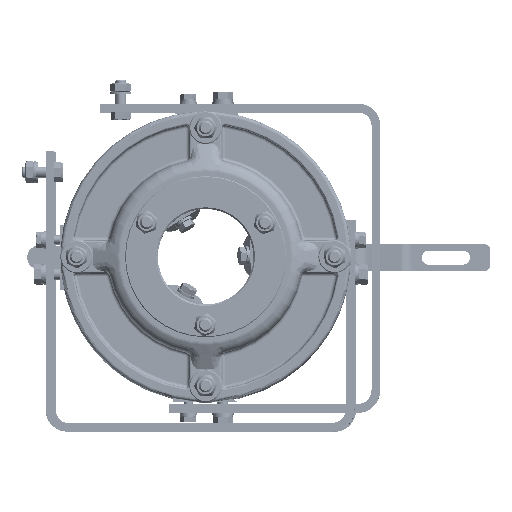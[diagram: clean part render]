
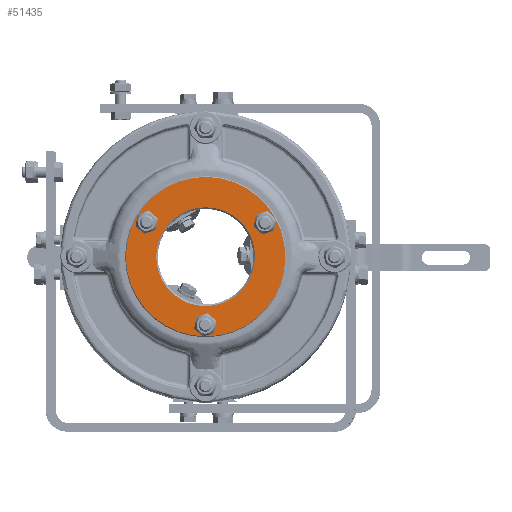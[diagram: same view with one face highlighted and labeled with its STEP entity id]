
A CAD part, top view. The second image highlights one B-rep face of the part: STEP entity #51435.
In plain terms, the highlighted planar face has unit normal (0, 0, 1).
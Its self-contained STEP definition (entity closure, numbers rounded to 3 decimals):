
#8114=FACE_BOUND('',#14236,.T.);
#8115=FACE_BOUND('',#14237,.T.);
#8116=FACE_BOUND('',#14238,.T.);
#8117=FACE_BOUND('',#14239,.T.);
#10763=FACE_OUTER_BOUND('',#14235,.T.);
#14235=EDGE_LOOP('',(#35446));
#14236=EDGE_LOOP('',(#35447,#35448,#35449,#35450,#35451,#35452));
#14237=EDGE_LOOP('',(#35453,#35454,#35455,#35456,#35457,#35458));
#14238=EDGE_LOOP('',(#35459,#35460,#35461,#35462,#35463,#35464));
#14239=EDGE_LOOP('',(#35465));
#18036=CIRCLE('',#54560,9.525);
#18037=CIRCLE('',#54562,9.525);
#18038=CIRCLE('',#54564,9.525);
#18039=CIRCLE('',#54566,9.525);
#18040=CIRCLE('',#54568,9.525);
#18041=CIRCLE('',#54570,9.525);
#18546=CIRCLE('',#55487,74.15);
#18547=CIRCLE('',#55488,9.525);
#18548=CIRCLE('',#55489,9.525);
#18549=CIRCLE('',#55490,9.525);
#18550=CIRCLE('',#55491,9.525);
#18551=CIRCLE('',#55492,9.525);
#18552=CIRCLE('',#55493,9.525);
#18553=CIRCLE('',#55494,9.525);
#18554=CIRCLE('',#55495,9.525);
#18555=CIRCLE('',#55496,9.525);
#18556=CIRCLE('',#55497,9.525);
#18557=CIRCLE('',#55498,9.525);
#18558=CIRCLE('',#55499,9.525);
#18559=CIRCLE('',#55500,45.95);
#20811=VERTEX_POINT('',#75893);
#20813=VERTEX_POINT('',#75898);
#20815=VERTEX_POINT('',#75905);
#20816=VERTEX_POINT('',#75914);
#20819=VERTEX_POINT('',#75925);
#20820=VERTEX_POINT('',#75934);
#21571=VERTEX_POINT('',#83646);
#21572=VERTEX_POINT('',#83648);
#21573=VERTEX_POINT('',#83649);
#21574=VERTEX_POINT('',#83651);
#21575=VERTEX_POINT('',#83653);
#21576=VERTEX_POINT('',#83655);
#21577=VERTEX_POINT('',#83657);
#21578=VERTEX_POINT('',#83660);
#21579=VERTEX_POINT('',#83661);
#21580=VERTEX_POINT('',#83663);
#21581=VERTEX_POINT('',#83665);
#21582=VERTEX_POINT('',#83667);
#21583=VERTEX_POINT('',#83669);
#21584=VERTEX_POINT('',#83672);
#25624=EDGE_CURVE('',#20813,#20811,#18036,.T.);
#25628=EDGE_CURVE('',#20815,#20813,#18037,.T.);
#25630=EDGE_CURVE('',#20811,#20816,#18038,.T.);
#25634=EDGE_CURVE('',#20819,#20815,#18039,.T.);
#25636=EDGE_CURVE('',#20816,#20820,#18040,.T.);
#25640=EDGE_CURVE('',#20820,#20819,#18041,.T.);
#26809=EDGE_CURVE('',#21571,#21571,#18546,.T.);
#26810=EDGE_CURVE('',#21572,#21573,#18547,.T.);
#26811=EDGE_CURVE('',#21573,#21574,#18548,.T.);
#26812=EDGE_CURVE('',#21574,#21575,#18549,.T.);
#26813=EDGE_CURVE('',#21575,#21576,#18550,.T.);
#26814=EDGE_CURVE('',#21576,#21577,#18551,.T.);
#26815=EDGE_CURVE('',#21577,#21572,#18552,.T.);
#26816=EDGE_CURVE('',#21578,#21579,#18553,.T.);
#26817=EDGE_CURVE('',#21579,#21580,#18554,.T.);
#26818=EDGE_CURVE('',#21580,#21581,#18555,.T.);
#26819=EDGE_CURVE('',#21581,#21582,#18556,.T.);
#26820=EDGE_CURVE('',#21582,#21583,#18557,.T.);
#26821=EDGE_CURVE('',#21583,#21578,#18558,.T.);
#26822=EDGE_CURVE('',#21584,#21584,#18559,.T.);
#35446=ORIENTED_EDGE('',*,*,#26809,.F.);
#35447=ORIENTED_EDGE('',*,*,#26810,.T.);
#35448=ORIENTED_EDGE('',*,*,#26811,.T.);
#35449=ORIENTED_EDGE('',*,*,#26812,.T.);
#35450=ORIENTED_EDGE('',*,*,#26813,.T.);
#35451=ORIENTED_EDGE('',*,*,#26814,.T.);
#35452=ORIENTED_EDGE('',*,*,#26815,.T.);
#35453=ORIENTED_EDGE('',*,*,#25624,.T.);
#35454=ORIENTED_EDGE('',*,*,#25630,.T.);
#35455=ORIENTED_EDGE('',*,*,#25636,.T.);
#35456=ORIENTED_EDGE('',*,*,#25640,.T.);
#35457=ORIENTED_EDGE('',*,*,#25634,.T.);
#35458=ORIENTED_EDGE('',*,*,#25628,.T.);
#35459=ORIENTED_EDGE('',*,*,#26816,.T.);
#35460=ORIENTED_EDGE('',*,*,#26817,.T.);
#35461=ORIENTED_EDGE('',*,*,#26818,.T.);
#35462=ORIENTED_EDGE('',*,*,#26819,.T.);
#35463=ORIENTED_EDGE('',*,*,#26820,.T.);
#35464=ORIENTED_EDGE('',*,*,#26821,.T.);
#35465=ORIENTED_EDGE('',*,*,#26822,.F.);
#46049=PLANE('',#55486);
#51435=ADVANCED_FACE('',(#10763,#8114,#8115,#8116,#8117),#46049,.T.);
#54560=AXIS2_PLACEMENT_3D('',#75899,#61251,#61252);
#54562=AXIS2_PLACEMENT_3D('',#75912,#61255,#61256);
#54564=AXIS2_PLACEMENT_3D('',#75919,#61259,#61260);
#54566=AXIS2_PLACEMENT_3D('',#75932,#61263,#61264);
#54568=AXIS2_PLACEMENT_3D('',#75939,#61267,#61268);
#54570=AXIS2_PLACEMENT_3D('',#75951,#61271,#61272);
#55486=AXIS2_PLACEMENT_3D('',#83645,#63289,#63290);
#55487=AXIS2_PLACEMENT_3D('',#83647,#63291,#63292);
#55488=AXIS2_PLACEMENT_3D('',#83650,#63293,#63294);
#55489=AXIS2_PLACEMENT_3D('',#83652,#63295,#63296);
#55490=AXIS2_PLACEMENT_3D('',#83654,#63297,#63298);
#55491=AXIS2_PLACEMENT_3D('',#83656,#63299,#63300);
#55492=AXIS2_PLACEMENT_3D('',#83658,#63301,#63302);
#55493=AXIS2_PLACEMENT_3D('',#83659,#63303,#63304);
#55494=AXIS2_PLACEMENT_3D('',#83662,#63305,#63306);
#55495=AXIS2_PLACEMENT_3D('',#83664,#63307,#63308);
#55496=AXIS2_PLACEMENT_3D('',#83666,#63309,#63310);
#55497=AXIS2_PLACEMENT_3D('',#83668,#63311,#63312);
#55498=AXIS2_PLACEMENT_3D('',#83670,#63313,#63314);
#55499=AXIS2_PLACEMENT_3D('',#83671,#63315,#63316);
#55500=AXIS2_PLACEMENT_3D('',#83673,#63317,#63318);
#61251=DIRECTION('center_axis',(0.,0.,
-1.));
#61252=DIRECTION('ref_axis',(0.192,0.981,0.));
#61255=DIRECTION('center_axis',(0.,0.,
-1.));
#61256=DIRECTION('ref_axis',(0.192,0.981,0.));
#61259=DIRECTION('center_axis',(0.,0.,
-1.));
#61260=DIRECTION('ref_axis',(0.192,0.981,0.));
#61263=DIRECTION('center_axis',(0.,0.,
-1.));
#61264=DIRECTION('ref_axis',(0.192,0.981,0.));
#61267=DIRECTION('center_axis',(0.,0.,
-1.));
#61268=DIRECTION('ref_axis',(0.192,0.981,0.));
#61271=DIRECTION('center_axis',(0.,0.,
-1.));
#61272=DIRECTION('ref_axis',(0.192,0.981,0.));
#63289=DIRECTION('center_axis',(0.,0.,
1.));
#63290=DIRECTION('ref_axis',(-1.,0.004,0.));
#63291=DIRECTION('center_axis',(0.,0.,
-1.));
#63292=DIRECTION('ref_axis',(1.,-0.004,0.));
#63293=DIRECTION('center_axis',(0.,0.,
-1.));
#63294=DIRECTION('ref_axis',(0.754,-0.657,0.));
#63295=DIRECTION('center_axis',(0.,0.,
-1.));
#63296=DIRECTION('ref_axis',(0.754,-0.657,0.));
#63297=DIRECTION('center_axis',(0.,0.,
-1.));
#63298=DIRECTION('ref_axis',(0.754,-0.657,0.));
#63299=DIRECTION('center_axis',(0.,0.,
-1.));
#63300=DIRECTION('ref_axis',(0.754,-0.657,0.));
#63301=DIRECTION('center_axis',(0.,0.,
-1.));
#63302=DIRECTION('ref_axis',(0.754,-0.657,0.));
#63303=DIRECTION('center_axis',(0.,0.,
-1.));
#63304=DIRECTION('ref_axis',(0.754,-0.657,0.));
#63305=DIRECTION('center_axis',(0.,0.,
-1.));
#63306=DIRECTION('ref_axis',(-0.946,-0.325,0.));
#63307=DIRECTION('center_axis',(0.,0.,
-1.));
#63308=DIRECTION('ref_axis',(-0.946,-0.325,0.));
#63309=DIRECTION('center_axis',(0.,0.,
-1.));
#63310=DIRECTION('ref_axis',(-0.946,-0.325,0.));
#63311=DIRECTION('center_axis',(0.,0.,
-1.));
#63312=DIRECTION('ref_axis',(-0.946,-0.325,0.));
#63313=DIRECTION('center_axis',(0.,0.,
-1.));
#63314=DIRECTION('ref_axis',(-0.946,-0.325,0.));
#63315=DIRECTION('center_axis',(0.,0.,
-1.));
#63316=DIRECTION('ref_axis',(-0.946,-0.325,0.));
#63317=DIRECTION('center_axis',(0.,0.,
1.));
#63318=DIRECTION('ref_axis',(1.,-0.004,0.));
#75893=CARTESIAN_POINT('',(-9.622,14.704,502.688));
#75898=CARTESIAN_POINT('',(-6.528,5.696,502.688));
#75899=CARTESIAN_POINT('Origin',(-0.273,12.879,502.688));
#75905=CARTESIAN_POINT('',(2.821,3.871,502.688));
#75912=CARTESIAN_POINT('Origin',(-0.273,12.879,502.688));
#75914=CARTESIAN_POINT('',(-3.367,21.888,502.688));
#75919=CARTESIAN_POINT('Origin',(-0.273,12.879,502.688));
#75925=CARTESIAN_POINT('',(9.075,11.054,502.688));
#75932=CARTESIAN_POINT('Origin',(-0.273,12.879,502.688));
#75934=CARTESIAN_POINT('',(5.982,20.063,502.688));
#75939=CARTESIAN_POINT('Origin',(-0.273,12.879,502.688));
#75951=CARTESIAN_POINT('Origin',(-0.273,12.879,502.688));
#83645=CARTESIAN_POINT('Origin',(-59.699,76.636,502.688));
#83646=CARTESIAN_POINT('',(-74.149,76.698,502.688));
#83647=CARTESIAN_POINT('Origin',(0.,76.379,
502.688));
#83648=CARTESIAN_POINT('',(-57.949,117.374,502.688));
#83649=CARTESIAN_POINT('',(-48.601,115.549,502.688));
#83650=CARTESIAN_POINT('Origin',(-54.856,108.365,502.688));
#83651=CARTESIAN_POINT('',(-45.507,106.54,502.688));
#83652=CARTESIAN_POINT('Origin',(-54.856,108.365,502.688));
#83653=CARTESIAN_POINT('',(-51.762,99.357,502.688));
#83654=CARTESIAN_POINT('Origin',(-54.856,108.365,502.688));
#83655=CARTESIAN_POINT('',(-61.11,101.182,502.688));
#83656=CARTESIAN_POINT('Origin',(-54.856,108.365,502.688));
#83657=CARTESIAN_POINT('',(-64.204,110.19,502.688));
#83658=CARTESIAN_POINT('Origin',(-54.856,108.365,502.688));
#83659=CARTESIAN_POINT('Origin',(-54.856,108.365,502.688));
#83660=CARTESIAN_POINT('',(64.477,106.067,502.688));
#83661=CARTESIAN_POINT('',(58.222,98.883,502.688));
#83662=CARTESIAN_POINT('Origin',(55.129,107.892,502.688));
#83663=CARTESIAN_POINT('',(48.874,100.708,502.688));
#83664=CARTESIAN_POINT('Origin',(55.129,107.892,502.688));
#83665=CARTESIAN_POINT('',(45.78,109.717,502.688));
#83666=CARTESIAN_POINT('Origin',(55.129,107.892,502.688));
#83667=CARTESIAN_POINT('',(52.035,116.901,502.688));
#83668=CARTESIAN_POINT('Origin',(55.129,107.892,502.688));
#83669=CARTESIAN_POINT('',(61.383,115.076,502.688));
#83670=CARTESIAN_POINT('Origin',(55.129,107.892,502.688));
#83671=CARTESIAN_POINT('Origin',(55.129,107.892,502.688));
#83672=CARTESIAN_POINT('',(-45.95,76.577,502.688));
#83673=CARTESIAN_POINT('Origin',(0.,76.379,
502.688));
